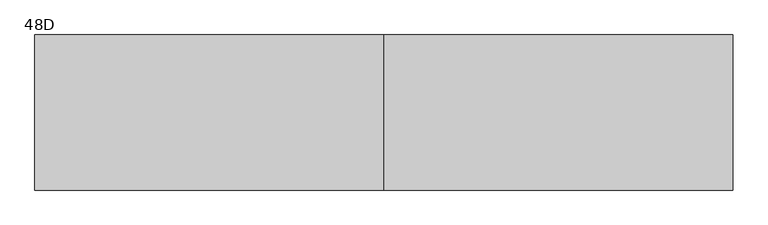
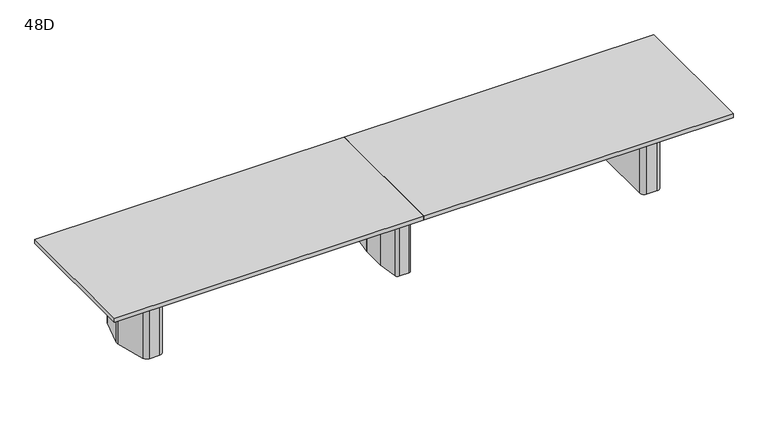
"""IFC4 building model written with IfcOpenShell, lengths in millimetres: furniture geometry, Coalesse_AM_Table_Conference_ETable2_Rectangular_18ft_ThreeBase : 48D."""

import ifcopenshell
import ifcopenshell.guid

model = None  # the IFC model being written
_history = None  # IfcOwnerHistory: only IFC2X3 demands one
_inside = {}  # id of a spatial element -> (the spatial element, [elements in it])
_under = {}  # id of a project, library or spatial element -> (it, [spatial elements below it])
_declared = {}  # id of a project -> (the project, [libraries it declares])
_typed = {}  # id of a type object -> (the type object, [elements of that type])
_made_of = {}  # id of a material, layer set ... -> (it, [elements and type objects made of it])


def new_model(schema):
    """Start an empty IFC model of exactly this schema.

    Asked for "IFC4X3", IfcOpenShell would pick the latest addendum, in which some entities
    have other attributes; the version numbers below select the first issue.
    IFC2X3 requires an IfcOwnerHistory on every rooted entity: one is made here for all.
    """
    global model, _history
    if schema == "IFC4X3":
        model = ifcopenshell.file(schema_version=(4, 3, 0, 0))
    else:
        model = ifcopenshell.file(schema=schema)
    _inside.clear()
    _under.clear()
    _declared.clear()
    _typed.clear()
    _made_of.clear()
    _history = None
    if model.schema == "IFC2X3":
        org = make("IfcOrganization", Name="unknown")
        user = make(
            "IfcPersonAndOrganization",
            ThePerson=make("IfcPerson", FamilyName="unknown"),
            TheOrganization=org,
        )
        app = make(
            "IfcApplication",
            ApplicationDeveloper=org,
            Version="unknown",
            ApplicationFullName="unknown",
            ApplicationIdentifier="unknown",
        )
        _history = make(
            "IfcOwnerHistory",
            OwningUser=user,
            OwningApplication=app,
            ChangeAction="ADDED",
            CreationDate=0,
        )
    return model


def make(cls, **values):
    """One entity of the class cls with the attributes given. An attribute that is None is left unset."""
    return model.create_entity(
        cls, **{name: value for name, value in values.items() if value is not None}
    )


def rooted(cls, **values):
    """An entity with a GlobalId (a new one), such as an element, a storey or a relation."""
    return make(cls, GlobalId=ifcopenshell.guid.new(), OwnerHistory=_history, **values)


def si_unit(unit_type, name, prefix=None):
    """IfcSIUnit, for example si_unit("LENGTHUNIT", "METRE", prefix="MILLI")."""
    return make("IfcSIUnit", UnitType=unit_type, Prefix=prefix, Name=name)


def assignment(units):
    """IfcUnitAssignment: the units of a project."""
    return None if units is None else make("IfcUnitAssignment", Units=units)


def point(xyz):
    """IfcCartesianPoint."""
    return None if xyz is None else make("IfcCartesianPoint", Coordinates=xyz)


def direction(xyz):
    """IfcDirection."""
    return None if xyz is None else make("IfcDirection", DirectionRatios=xyz)


def frame(location, z_axis=None, x_axis=None):
    """IfcAxis2Placement3D, a coordinate frame: its origin and axes. An axis left out is left unset."""
    return make(
        "IfcAxis2Placement3D",
        Location=point(location),
        Axis=direction(z_axis),
        RefDirection=direction(x_axis),
    )


def origin():
    """The frame at (0, 0, 0) with its axes left unset."""
    return frame((0.0, 0.0, 0.0))


def place(relative_to, where):
    """IfcLocalPlacement: puts the frame where relative to a parent placement (None: the world)."""
    return make(
        "IfcLocalPlacement", PlacementRelTo=relative_to, RelativePlacement=where
    )


def context(
    kind, dimensions, precision=None, world=None, true_north=None, identifier=None
):
    """IfcGeometricRepresentationContext, for example the 3D "Model" context."""
    return make(
        "IfcGeometricRepresentationContext",
        ContextIdentifier=identifier,
        ContextType=kind,
        CoordinateSpaceDimension=dimensions,
        Precision=precision,
        WorldCoordinateSystem=world,
        TrueNorth=true_north,
    )


def project(units=None, contexts=None):
    """IfcProject with its units and contexts."""
    return rooted(
        "IfcProject",
        Name="project",
        RepresentationContexts=contexts,
        UnitsInContext=assignment(units),
    )


def spatial(cls, under=None, at=None, **own):
    """A site, building, storey or space (cls), placed at a placement, below another one or the project."""
    s = rooted(cls, ObjectPlacement=at, **own)
    if under is not None:
        _under.setdefault(under.id(), (under, []))[1].append(s)
    return s


def polyline(points):
    """IfcPolyline through the points."""
    return make("IfcPolyline", Points=[point(p) for p in points])


def circle_curve(where, radius):
    """IfcCircle in the frame where."""
    return make("IfcCircle", Position=where, Radius=radius)


def outline(outer, holes=None, kind="AREA"):
    """IfcArbitraryClosedProfileDef: a profile drawn as a closed curve; with holes, ...WithVoids."""
    if holes is None:
        return make("IfcArbitraryClosedProfileDef", ProfileType=kind, OuterCurve=outer)
    return make(
        "IfcArbitraryProfileDefWithVoids",
        ProfileType=kind,
        OuterCurve=outer,
        InnerCurves=holes,
    )


def extrude(swept, where, along, depth):
    """IfcExtrudedAreaSolid: the profile swept, set in the frame where, extruded along a direction by depth."""
    return make(
        "IfcExtrudedAreaSolid",
        SweptArea=swept,
        Position=where,
        ExtrudedDirection=direction(along),
        Depth=depth,
    )


def shape(context_of_items, identifier, shape_type, items):
    """IfcShapeRepresentation: the items that make up one representation, for example the "Body"."""
    return make(
        "IfcShapeRepresentation",
        ContextOfItems=context_of_items,
        RepresentationIdentifier=identifier,
        RepresentationType=shape_type,
        Items=items,
    )


def source(mapping_origin, context_of_items, identifier, shape_type, items):
    """IfcRepresentationMap: a shape defined once, which mapped items show again and again."""
    return make(
        "IfcRepresentationMap",
        MappingOrigin=mapping_origin,
        MappedRepresentation=shape(context_of_items, identifier, shape_type, items),
    )


def transform(
    local_origin,
    x_axis=None,
    y_axis=None,
    z_axis=None,
    scale=None,
    scale2=None,
    scale3=None,
    uniform=True,
):
    """IfcCartesianTransformationOperator3D, or its non-uniform kind. x_axis, y_axis, z_axis: its Axis1, 2, 3."""
    if uniform:
        return make(
            "IfcCartesianTransformationOperator3D",
            Axis1=direction(x_axis),
            Axis2=direction(y_axis),
            LocalOrigin=point(local_origin),
            Scale=scale,
            Axis3=direction(z_axis),
        )
    return make(
        "IfcCartesianTransformationOperator3DnonUniform",
        Axis1=direction(x_axis),
        Axis2=direction(y_axis),
        LocalOrigin=point(local_origin),
        Scale=scale,
        Axis3=direction(z_axis),
        Scale2=scale2,
        Scale3=scale3,
    )


def mapped(mapping_source, mapping_target):
    """IfcMappedItem: shows the shape of a source again, moved by a transform."""
    return make(
        "IfcMappedItem", MappingSource=mapping_source, MappingTarget=mapping_target
    )


def made_of(thing, what):
    """Note that an element or type object is made of a material, layer set ...; save() writes the relation."""
    if what is not None:
        _made_of.setdefault(what.id(), (what, []))[1].append(thing)
    return thing


def element(
    cls,
    number,
    at=None,
    inside=None,
    cuts=None,
    type_object=None,
    material=None,
    context=None,
    identifier="Body",
    shape_type=None,
    held_by="IfcProductDefinitionShape",
    body=None,
    shapes=None,
    **own,
):
    """One element of the class cls, such as IfcWall. Its Tag is "e" and its number.

    at: its placement. inside: the storey or other place that contains it. cuts: it is an
    opening in that element (IfcRelVoidsElement). A single representation is given by context,
    identifier, shape_type and body (its items); several are given by shapes. held_by: the class
    of the entity that holds the representations. save() writes the other relations.
    """
    e = rooted(cls, Tag="e%d" % number, ObjectPlacement=at, **own)
    if body is not None:
        shapes = [shape(context, identifier, shape_type, body)]
    if shapes is not None:
        e.Representation = make(held_by, Representations=shapes)
    if inside is not None:
        _inside.setdefault(inside.id(), (inside, []))[1].append(e)
    if cuts is not None:
        rooted(
            "IfcRelVoidsElement", RelatingBuildingElement=cuts, RelatedOpeningElement=e
        )
    if type_object is not None:
        _typed.setdefault(type_object.id(), (type_object, []))[1].append(e)
    return made_of(e, material)


def aggregate(whole, parts):
    """IfcRelAggregates: a whole, such as a stair, and the parts it consists of."""
    return rooted("IfcRelAggregates", RelatingObject=whole, RelatedObjects=parts)


def save(model, path):
    """Write the relations noted so far, then the file.

    IfcRelAggregates (storeys below a building ...), IfcRelContainedInSpatialStructure (elements
    in a storey), IfcRelDefinesByType, IfcRelAssociatesMaterial and IfcRelDeclares: one each for
    every whole, place, type object, material and project.
    """
    for whole, parts in _under.values():
        aggregate(whole, parts)
    for where, things in _inside.values():
        rooted(
            "IfcRelContainedInSpatialStructure",
            RelatedElements=things,
            RelatingStructure=where,
        )
    for kind, things in _typed.values():
        rooted("IfcRelDefinesByType", RelatedObjects=things, RelatingType=kind)
    for what, things in _made_of.values():
        rooted("IfcRelAssociatesMaterial", RelatedObjects=things, RelatingMaterial=what)
    for by, libraries in _declared.values():
        rooted("IfcRelDeclares", RelatingContext=by, RelatedDefinitions=libraries)
    model.write(path)


def plane_surface(at):
    """IfcPlane: the flat surface through the origin of the frame at, square to its z axis."""
    return make("IfcPlane", Position=at)


def cylinder_surface(at, radius):
    """IfcCylindricalSurface: all points at the distance radius from the z axis of the frame at."""
    return make("IfcCylindricalSurface", Position=at, Radius=radius)


def revolved_surface(curve, axis_point, axis_direction):
    """IfcSurfaceOfRevolution: the curve turned about the line through axis_point along axis_direction."""
    return make(
        "IfcSurfaceOfRevolution",
        SweptCurve=make("IfcArbitraryOpenProfileDef", ProfileType="CURVE", Curve=curve),
        AxisPosition=make("IfcAxis1Placement", Location=point(axis_point), Axis=direction(axis_direction)),
    )


def advanced_brep(points, edges, surfaces, faces):
    """IfcAdvancedBrep: a solid bounded by faces that lie on surfaces and meet in shared edges.

    An edge is (start, end): straight between two places in points (the first is 0);
    or (start, end, curve); or (start, end, curve, False) where it runs against its curve.
    A face is (place in surfaces, loops), or (place, loops, False) where it looks against
    its surface's normal. A loop lists edges by number (the first is 1), with a minus sign
    where the edge is run from its end to its start. The first loop is the outer one.
    """
    corners = [point(p) for p in points]
    vertices = [make("IfcVertexPoint", VertexGeometry=c) for c in corners]
    made = []
    for start, end, *more in edges:
        made.append(
            make(
                "IfcEdgeCurve",
                EdgeStart=vertices[start],
                EdgeEnd=vertices[end],
                EdgeGeometry=more[0] if more else make("IfcPolyline", Points=[corners[start], corners[end]]),
                SameSense=more[1] if len(more) > 1 else True,
            )
        )
    hull = []
    for where, loops, *sense in faces:
        bounds = []
        for j, loop in enumerate(loops):
            ring = [make("IfcOrientedEdge", EdgeElement=made[abs(k) - 1], Orientation=k > 0) for k in loop]
            bounds.append(
                make(
                    "IfcFaceOuterBound" if j == 0 else "IfcFaceBound",
                    Bound=make("IfcEdgeLoop", EdgeList=ring),
                    Orientation=True,
                )
            )
        hull.append(make("IfcAdvancedFace", Bounds=bounds, FaceSurface=surfaces[where], SameSense=sense[0] if sense else True))
    return make("IfcAdvancedBrep", Outer=make("IfcClosedShell", CfsFaces=hull))


def furniture_48d_d8c206ab(model_context):
    return source(origin(), model_context, "Body", "SolidModel", [
        advanced_brep(
        [(35.71875, 206.375, 3.175), (10.31875, 231.775, 3.175), (-10.31875, 231.775, 3.175), (-35.71875, 206.375, 3.175), (-35.71875, -206.375, 3.175), (-10.31875, -231.775, 3.175), (10.31875, -231.775, 3.175), (35.71875, -206.375, 3.175), (-61.11875, 206.375, 0.0), (-10.31875, 257.175, 0.0), (10.31875, 257.175, 0.0), (61.11875, 206.375, 0.0), (61.11875, -206.375, 0.0), (10.31875, -257.175, 0.0), (-10.31875, -257.175, 0.0), (-61.11875, -206.375, 0.0), (-61.11875, -206.375, 3.175), (-61.11875, 206.375, 3.175), (-10.31875, -257.175, 3.175), (10.31875, -257.175, 3.175), (61.11875, -206.375, 3.175), (61.11875, 206.375, 3.175), (10.31875, 257.175, 3.175), (-10.31875, 257.175, 3.175), (-92.6215974, 106.2976848, 698.5), (-92.86875, 102.7629613, 698.5), (-92.86875, -102.7629613, 698.5), (-92.6215974, -106.2976848, 698.5), (-67.7988375, -282.9347235, 698.5), (-42.6459902, -304.8, 698.5), (42.6459902, -304.8, 698.5), (67.7988375, -282.9347235, 698.5), (92.6215974, -106.2976848, 698.5), (92.86875, -102.7629613, 698.5), (92.86875, 102.7629613, 698.5), (92.6215974, 106.2976848, 698.5), (67.7988375, 282.9347235, 698.5), (42.6459902, 304.8, 698.5), (-42.6459902, 304.8, 698.5), (-67.7988375, 282.9347235, 698.5), (10.31875, 231.775, 698.5), (35.71875, 206.375, 698.5), (35.71875, -206.375, 698.5), (10.31875, -231.775, 698.5), (-10.31875, -231.775, 698.5), (-35.71875, -206.375, 698.5), (-35.71875, 206.375, 698.5), (-10.31875, 231.775, 698.5), (-92.6215974, 106.2976848, 3.175), (-67.7988375, 282.9347235, 3.175), (-42.6459902, 304.8, 3.175), (42.6459902, 304.8, 3.175), (67.7988375, 282.9347235, 3.175), (92.6215974, 106.2976848, 3.175), (92.86875, 102.7629613, 3.175), (92.86875, -102.7629613, 3.175), (92.6215974, -106.2976848, 3.175), (67.7988375, -282.9347235, 3.175), (42.6459902, -304.8, 3.175), (-42.6459902, -304.8, 3.175), (-67.7988375, -282.9347235, 3.175), (-92.6215974, -106.2976848, 3.175), (-92.86875, -102.7629613, 3.175), (-92.86875, 102.7629613, 3.175)],
        [
            (0, 1, circle_curve(frame((10.31875, 206.375, 3.175), z_axis=(0.0, 0.0, 1.0), x_axis=(1.0, 0.0, 0.0)), 25.4)),
            (1, 2),
            (2, 3, circle_curve(frame((-10.31875, 206.375, 3.175), z_axis=(0.0, 0.0, 1.0), x_axis=(1.0, 0.0, 0.0)), 25.4)),
            (3, 4),
            (4, 5, circle_curve(frame((-10.31875, -206.375, 3.175), z_axis=(0.0, 0.0, 1.0), x_axis=(1.0, 0.0, 0.0)), 25.4)),
            (5, 6),
            (6, 7, circle_curve(frame((10.31875, -206.375, 3.175), z_axis=(0.0, 0.0, 1.0), x_axis=(1.0, 0.0, 0.0)), 25.4)),
            (7, 0),
            (8, 9, circle_curve(frame((-10.31875, 206.375, 0.0), z_axis=(0.0, 0.0, -1.0), x_axis=(1.0, 0.0, 0.0)), 50.8)),
            (9, 10),
            (10, 11, circle_curve(frame((10.31875, 206.375, 0.0), z_axis=(0.0, 0.0, -1.0), x_axis=(1.0, 0.0, 0.0)), 50.8)),
            (11, 12),
            (12, 13, circle_curve(frame((10.31875, -206.375, 0.0), z_axis=(0.0, 0.0, -1.0), x_axis=(1.0, 0.0, 0.0)), 50.8)),
            (13, 14),
            (14, 15, circle_curve(frame((-10.31875, -206.375, 0.0), z_axis=(0.0, 0.0, -1.0), x_axis=(1.0, 0.0, 0.0)), 50.8)),
            (15, 8),
            (15, 16),
            (16, 17),
            (17, 8),
            (14, 18),
            (18, 16, circle_curve(frame((-10.31875, -206.375, 3.175), z_axis=(0.0, 0.0, -1.0), x_axis=(1.0, 0.0, 0.0)), 50.8)),
            (13, 19),
            (19, 18),
            (12, 20),
            (20, 19, circle_curve(frame((10.31875, -206.375, 3.175), z_axis=(0.0, 0.0, -1.0), x_axis=(1.0, 0.0, 0.0)), 50.8)),
            (11, 21),
            (21, 20),
            (10, 22),
            (22, 21, circle_curve(frame((10.31875, 206.375, 3.175), z_axis=(0.0, 0.0, -1.0), x_axis=(1.0, 0.0, 0.0)), 50.8)),
            (9, 23),
            (23, 22),
            (17, 23, circle_curve(frame((-10.31875, 206.375, 3.175), z_axis=(0.0, 0.0, -1.0), x_axis=(1.0, 0.0, 0.0)), 50.8)),
            (24, 25, circle_curve(frame((-67.46875, 102.7629613, 698.5), z_axis=(0.0, 0.0, 1.0), x_axis=(1.0, 0.0, 0.0)), 25.4)),
            (25, 26),
            (26, 27, circle_curve(frame((-67.46875, -102.7629613, 698.5), z_axis=(0.0, 0.0, 1.0), x_axis=(1.0, 0.0, 0.0)), 25.4)),
            (27, 28),
            (28, 29, circle_curve(frame((-42.6459902, -279.4, 698.5), z_axis=(0.0, 0.0, 1.0), x_axis=(1.0, 0.0, 0.0)), 25.4)),
            (29, 30),
            (30, 31, circle_curve(frame((42.6459902, -279.4, 698.5), z_axis=(0.0, 0.0, 1.0), x_axis=(1.0, 0.0, 0.0)), 25.4)),
            (31, 32),
            (32, 33, circle_curve(frame((67.46875, -102.7629613, 698.5), z_axis=(0.0, 0.0, 1.0), x_axis=(1.0, 0.0, 0.0)), 25.4)),
            (33, 34),
            (34, 35, circle_curve(frame((67.46875, 102.7629613, 698.5), z_axis=(0.0, 0.0, 1.0), x_axis=(1.0, 0.0, 0.0)), 25.4)),
            (35, 36),
            (36, 37, circle_curve(frame((42.6459902, 279.4, 698.5), z_axis=(0.0, 0.0, 1.0), x_axis=(1.0, 0.0, 0.0)), 25.4)),
            (37, 38),
            (38, 39, circle_curve(frame((-42.6459902, 279.4, 698.5), z_axis=(0.0, 0.0, 1.0), x_axis=(1.0, 0.0, 0.0)), 25.4)),
            (39, 24),
            (40, 41, circle_curve(frame((10.31875, 206.375, 698.5), z_axis=(0.0, 0.0, -1.0), x_axis=(1.0, 0.0, 0.0)), 25.4)),
            (41, 42),
            (42, 43, circle_curve(frame((10.31875, -206.375, 698.5), z_axis=(0.0, 0.0, -1.0), x_axis=(1.0, 0.0, 0.0)), 25.4)),
            (43, 44),
            (44, 45, circle_curve(frame((-10.31875, -206.375, 698.5), z_axis=(0.0, 0.0, -1.0), x_axis=(1.0, 0.0, 0.0)), 25.4)),
            (45, 46),
            (46, 47, circle_curve(frame((-10.31875, 206.375, 698.5), z_axis=(0.0, 0.0, -1.0), x_axis=(1.0, 0.0, 0.0)), 25.4)),
            (47, 40),
            (48, 49),
            (49, 50, circle_curve(frame((-42.6459902, 279.4, 3.175), z_axis=(0.0, 0.0, -1.0), x_axis=(1.0, 0.0, 0.0)), 25.4)),
            (50, 51),
            (51, 52, circle_curve(frame((42.6459902, 279.4, 3.175), z_axis=(0.0, 0.0, -1.0), x_axis=(1.0, 0.0, 0.0)), 25.4)),
            (52, 53),
            (53, 54, circle_curve(frame((67.46875, 102.7629613, 3.175), z_axis=(0.0, 0.0, -1.0), x_axis=(1.0, 0.0, 0.0)), 25.4)),
            (54, 55),
            (55, 56, circle_curve(frame((67.46875, -102.7629613, 3.175), z_axis=(0.0, 0.0, -1.0), x_axis=(1.0, 0.0, 0.0)), 25.4)),
            (56, 57),
            (57, 58, circle_curve(frame((42.6459902, -279.4, 3.175), z_axis=(0.0, 0.0, -1.0), x_axis=(1.0, 0.0, 0.0)), 25.4)),
            (58, 59),
            (59, 60, circle_curve(frame((-42.6459902, -279.4, 3.175), z_axis=(0.0, 0.0, -1.0), x_axis=(1.0, 0.0, 0.0)), 25.4)),
            (60, 61),
            (61, 62, circle_curve(frame((-67.46875, -102.7629613, 3.175), z_axis=(0.0, 0.0, -1.0), x_axis=(1.0, 0.0, 0.0)), 25.4)),
            (62, 63),
            (63, 48, circle_curve(frame((-67.46875, 102.7629613, 3.175), z_axis=(0.0, 0.0, -1.0), x_axis=(1.0, 0.0, 0.0)), 25.4)),
            (24, 48),
            (63, 25),
            (62, 26),
            (61, 27),
            (60, 28),
            (59, 29),
            (58, 30),
            (57, 31),
            (56, 32),
            (55, 33),
            (54, 34),
            (53, 35),
            (52, 36),
            (51, 37),
            (50, 38),
            (49, 39),
            (40, 1),
            (0, 41),
            (7, 42),
            (6, 43),
            (5, 44),
            (4, 45),
            (3, 46),
            (2, 47),
        ],
        [
            plane_surface(frame((-61.11875, -206.375, 3.175), z_axis=(0.0, 0.0, 1.0), x_axis=(0.0, -1.0, 0.0))),
            plane_surface(frame((-61.11875, -206.375, 0.0), z_axis=(0.0, 0.0, -1.0), x_axis=(0.0, 1.0, 0.0))),
            plane_surface(frame((-61.11875, 206.375, 3.175), z_axis=(-1.0, 0.0, 0.0), x_axis=(0.0, 0.0, -1.0))),
            cylinder_surface(frame((-10.31875, -206.375, 0.0), z_axis=(0.0, 0.0, 1.0), x_axis=(1.0, 0.0, 0.0)), 50.8),
            plane_surface(frame((-10.31875, -257.175, 3.175), z_axis=(0.0, -1.0, 0.0), x_axis=(0.0, 0.0, -1.0))),
            cylinder_surface(frame((10.31875, -206.375, 0.0), z_axis=(0.0, 0.0, 1.0), x_axis=(1.0, 0.0, 0.0)), 50.8),
            plane_surface(frame((61.11875, -206.375, 3.175), z_axis=(1.0, 0.0, 0.0), x_axis=(0.0, 0.0, -1.0))),
            cylinder_surface(frame((10.31875, 206.375, 0.0), z_axis=(0.0, 0.0, 1.0), x_axis=(1.0, 0.0, 0.0)), 50.8),
            plane_surface(frame((10.31875, 257.175, 3.175), z_axis=(0.0, 1.0, 0.0), x_axis=(0.0, 0.0, -1.0))),
            cylinder_surface(frame((-10.31875, 206.375, 0.0), z_axis=(0.0, 0.0, 1.0), x_axis=(1.0, 0.0, 0.0)), 50.8),
            plane_surface(frame((-42.06875, 102.7629613, 698.5), z_axis=(0.0, 0.0, 1.0), x_axis=(0.0, 1.0, 0.0))),
            plane_surface(frame((-42.06875, 102.7629613, 3.175), z_axis=(0.0, 0.0, -1.0), x_axis=(0.0, -1.0, 0.0))),
            cylinder_surface(frame((-67.46875, 102.7629613, 3.175), z_axis=(0.0, 0.0, 1.0), x_axis=(1.0, 0.0, 0.0)), 25.4),
            plane_surface(frame((-92.86875, 102.7629613, 698.5), z_axis=(-1.0, 0.0, 0.0), x_axis=(0.0, 0.0, -1.0))),
            cylinder_surface(frame((-67.46875, -102.7629613, 3.175), z_axis=(0.0, 0.0, 1.0), x_axis=(1.0, 0.0, 0.0)), 25.4),
            plane_surface(frame((-92.6215974, -106.2976848, 698.5), z_axis=(-0.9902695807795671, -0.13916234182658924, 0.0), x_axis=(0.0, 0.0, -1.0))),
            cylinder_surface(frame((-42.6459902, -279.4, 3.175), z_axis=(0.0, 0.0, 1.0), x_axis=(1.0, 0.0, 0.0)), 25.4),
            plane_surface(frame((-42.6459902, -304.8, 698.5), z_axis=(0.0, -1.0, 0.0), x_axis=(0.0, 0.0, -1.0))),
            cylinder_surface(frame((42.6459902, -279.4, 3.175), z_axis=(0.0, 0.0, 1.0), x_axis=(1.0, 0.0, 0.0)), 25.4),
            plane_surface(frame((67.7988375, -282.9347235, 698.5), z_axis=(0.9902695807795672, -0.13916234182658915, 0.0), x_axis=(0.0, 0.0, -1.0))),
            cylinder_surface(frame((67.46875, -102.7629613, 3.175), z_axis=(0.0, 0.0, 1.0), x_axis=(1.0, 0.0, 0.0)), 25.4),
            plane_surface(frame((92.86875, -102.7629613, 698.5), z_axis=(1.0, 0.0, 0.0), x_axis=(0.0, 0.0, -1.0))),
            cylinder_surface(frame((67.46875, 102.7629613, 3.175), z_axis=(0.0, 0.0, 1.0), x_axis=(1.0, 0.0, 0.0)), 25.4),
            plane_surface(frame((92.6215974, 106.2976848, 698.5), z_axis=(0.9902695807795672, 0.1391623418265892, 0.0), x_axis=(0.0, 0.0, -1.0))),
            cylinder_surface(frame((42.6459902, 279.4, 3.175), z_axis=(0.0, 0.0, 1.0), x_axis=(1.0, 0.0, 0.0)), 25.4),
            plane_surface(frame((42.6459902, 304.8, 698.5), z_axis=(0.0, 1.0, 0.0), x_axis=(0.0, 0.0, -1.0))),
            cylinder_surface(frame((-42.6459902, 279.4, 3.175), z_axis=(0.0, 0.0, 1.0), x_axis=(1.0, 0.0, 0.0)), 25.4),
            plane_surface(frame((-67.7988375, 282.9347235, 698.5), z_axis=(-0.9902695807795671, 0.13916234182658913, 0.0), x_axis=(0.0, 0.0, -1.0))),
            revolved_surface(polyline([(35.71875, 206.375, 3.175), (35.71875, 206.375, 698.5)]), (10.31875, 206.375, 0.0), (0.0, 0.0, -1.0)),
            plane_surface(frame((35.71875, 206.375, 698.5), z_axis=(-1.0, 0.0, 0.0), x_axis=(0.0, 0.0, -1.0))),
            revolved_surface(polyline([(35.71875, -206.375, 3.175), (35.71875, -206.375, 698.5)]), (10.31875, -206.375, 0.0), (0.0, 0.0, -1.0)),
            plane_surface(frame((10.31875, -231.775, 698.5), z_axis=(0.0, 1.0, 0.0), x_axis=(0.0, 0.0, -1.0))),
            revolved_surface(polyline([(15.081249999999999, -206.375, 3.175), (15.081249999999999, -206.375, 698.5)]), (-10.31875, -206.375, 0.0), (0.0, 0.0, -1.0)),
            plane_surface(frame((-35.71875, -206.375, 698.5), z_axis=(1.0, 0.0, 0.0), x_axis=(0.0, 0.0, -1.0))),
            revolved_surface(polyline([(15.081249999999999, 206.375, 3.175), (15.081249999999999, 206.375, 698.5)]), (-10.31875, 206.375, 0.0), (0.0, 0.0, -1.0)),
            plane_surface(frame((-10.31875, 231.775, 698.5), z_axis=(0.0, -1.0, 0.0), x_axis=(0.0, 0.0, -1.0))),
        ],
        [
            (0, [[1, 2, 3, 4, 5, 6, 7, 8]]),
            (1, [[9, 10, 11, 12, 13, 14, 15, 16]]),
            (2, [[-16, 17, 18, 19]]),
            (3, [[-15, 20, 21, -17]]),
            (4, [[-14, 22, 23, -20]]),
            (5, [[-13, 24, 25, -22]]),
            (6, [[-12, 26, 27, -24]]),
            (7, [[-11, 28, 29, -26]]),
            (8, [[-10, 30, 31, -28]]),
            (9, [[-9, -19, 32, -30]]),
            (10, [[33, 34, 35, 36, 37, 38, 39, 40, 41, 42, 43, 44, 45, 46, 47, 48], [49, 50, 51, 52, 53, 54, 55, 56]]),
            (11, [[57, 58, 59, 60, 61, 62, 63, 64, 65, 66, 67, 68, 69, 70, 71, 72], [-18, -21, -23, -25, -27, -29, -31, -32]]),
            (12, [[-33, 73, -72, 74]]),
            (13, [[-34, -74, -71, 75]]),
            (14, [[-35, -75, -70, 76]]),
            (15, [[-36, -76, -69, 77]]),
            (16, [[-37, -77, -68, 78]]),
            (17, [[-38, -78, -67, 79]]),
            (18, [[-39, -79, -66, 80]]),
            (19, [[-40, -80, -65, 81]]),
            (20, [[-41, -81, -64, 82]]),
            (21, [[-42, -82, -63, 83]]),
            (22, [[-43, -83, -62, 84]]),
            (23, [[-44, -84, -61, 85]]),
            (24, [[-45, -85, -60, 86]]),
            (25, [[-46, -86, -59, 87]]),
            (26, [[-47, -87, -58, 88]]),
            (27, [[-48, -88, -57, -73]]),
            (28, [[-49, 89, -1, 90]]),
            (29, [[-50, -90, -8, 91]]),
            (30, [[-51, -91, -7, 92]]),
            (31, [[-52, -92, -6, 93]]),
            (32, [[-53, -93, -5, 94]]),
            (33, [[-54, -94, -4, 95]]),
            (34, [[-55, -95, -3, 96]]),
            (35, [[-56, -96, -2, -89]]),
        ],
    ),
        advanced_brep(
        [(2284.624548, 274.2093613, 698.5), (2244.7579246, 304.8, 698.5), (2155.825, 304.8, 698.5), (2114.55, 263.525, 698.5), (2114.55, -263.525, 698.5), (2155.825, -304.8, 698.5), (2244.7579246, -304.8, 698.5), (2284.624548, -274.2093613, 698.5), (2355.2503901, -10.6333708, 698.5), (2355.2503901, 10.6333708, 698.5), (2152.65, -206.375, 698.5), (2152.65, 206.375, 698.5), (2178.05, 231.775, 698.5), (2237.0608422, 231.775, 698.5), (2261.595338, 212.9490792, 698.5), (2300.2875, 68.54974, 698.5), (2300.2875, -68.54974, 698.5), (2261.595338, -212.9490792, 698.5), (2237.0608422, -231.775, 698.5), (2178.05, -231.775, 698.5), (2284.624548, 274.2093613, 3.175), (2355.2503901, 10.6333708, 3.175), (2355.2503901, -10.6333708, 3.175), (2284.624548, -274.2093613, 3.175), (2244.7579246, -304.8, 3.175), (2155.825, -304.8, 3.175), (2114.55, -263.525, 3.175), (2114.55, 263.525, 3.175), (2155.825, 304.8, 3.175), (2244.7579246, 304.8, 3.175), (2273.8625859, 216.2361187, 3.175), (2237.0608422, 244.475, 3.175), (2178.05, 244.475, 3.175), (2139.95, 206.375, 3.175), (2139.95, -206.375, 3.175), (2178.05, -244.475, 3.175), (2237.0608422, -244.475, 3.175), (2273.8625859, -216.2361187, 3.175), (2312.9875, -70.2217466, 3.175), (2312.9875, 70.2217466, 3.175), (2178.05, -231.775, 3.175), (2152.65, -206.375, 3.175), (2237.0608422, -231.775, 3.175), (2261.595338, -212.9490792, 3.175), (2300.2875, -68.54974, 3.175), (2300.2875, 68.54974, 3.175), (2261.595338, 212.9490792, 3.175), (2237.0608422, 231.775, 3.175), (2178.05, 231.775, 3.175), (2152.65, 206.375, 3.175), (2273.8625859, 216.2361187, 0.0), (2312.9875, 70.2217466, 0.0), (2312.9875, -70.2217466, 0.0), (2273.8625859, -216.2361187, 0.0), (2237.0608422, -244.475, 0.0), (2178.05, -244.475, 0.0), (2139.95, -206.375, 0.0), (2139.95, 206.375, 0.0), (2178.05, 244.475, 0.0), (2237.0608422, 244.475, 0.0)],
        [
            (0, 1, circle_curve(frame((2244.7579246, 263.5270004, 698.5), z_axis=(0.0, 0.0, 1.0), x_axis=(-1.0, 0.0, 0.0)), 41.2729996)),
            (1, 2),
            (2, 3, circle_curve(frame((2155.825, 263.525, 698.5), z_axis=(0.0, 0.0, 1.0), x_axis=(-1.0, 0.0, 0.0)), 41.275)),
            (3, 4),
            (4, 5, circle_curve(frame((2155.825, -263.525, 698.5), z_axis=(0.0, 0.0, 1.0), x_axis=(-1.0, 0.0, 0.0)), 41.275)),
            (5, 6),
            (6, 7, circle_curve(frame((2244.7579246, -263.5270004, 698.5), z_axis=(0.0, 0.0, 1.0), x_axis=(-1.0, 0.0, 0.0)), 41.2729996)),
            (7, 8),
            (8, 9, circle_curve(frame((2315.5665979, 0.0, 698.5), z_axis=(0.0, 0.0, 1.0), x_axis=(-1.0, 0.0, 0.0)), 41.0837187)),
            (9, 0),
            (10, 11),
            (11, 12, circle_curve(frame((2178.05, 206.375, 698.5), z_axis=(0.0, 0.0, -1.0), x_axis=(-1.0, 0.0, 0.0)), 25.4)),
            (12, 13),
            (13, 14, circle_curve(frame((2237.0608422, 206.375, 698.5), z_axis=(0.0, 0.0, -1.0), x_axis=(-1.0, 0.0, 0.0)), 25.4)),
            (14, 15),
            (15, 16),
            (16, 17),
            (17, 18, circle_curve(frame((2237.0608422, -206.375, 698.5), z_axis=(0.0, 0.0, -1.0), x_axis=(-1.0, 0.0, 0.0)), 25.4)),
            (18, 19),
            (19, 10, circle_curve(frame((2178.05, -206.375, 698.5), z_axis=(0.0, 0.0, -1.0), x_axis=(-1.0, 0.0, 0.0)), 25.4)),
            (20, 21),
            (21, 22, circle_curve(frame((2315.5665979, 0.0, 3.175), z_axis=(0.0, 0.0, -1.0), x_axis=(-1.0, 0.0, 0.0)), 41.0837187)),
            (22, 23),
            (23, 24, circle_curve(frame((2244.7579246, -263.5270004, 3.175), z_axis=(0.0, 0.0, -1.0), x_axis=(-1.0, 0.0, 0.0)), 41.2729996)),
            (24, 25),
            (25, 26, circle_curve(frame((2155.825, -263.525, 3.175), z_axis=(0.0, 0.0, -1.0), x_axis=(-1.0, 0.0, 0.0)), 41.275)),
            (26, 27),
            (27, 28, circle_curve(frame((2155.825, 263.525, 3.175), z_axis=(0.0, 0.0, -1.0), x_axis=(-1.0, 0.0, 0.0)), 41.275)),
            (28, 29),
            (29, 20, circle_curve(frame((2244.7579246, 263.5270004, 3.175), z_axis=(0.0, 0.0, -1.0), x_axis=(-1.0, 0.0, 0.0)), 41.2729996)),
            (30, 31, circle_curve(frame((2237.0608422, 206.375, 3.175), z_axis=(0.0, 0.0, 1.0), x_axis=(-1.0, 0.0, 0.0)), 38.1)),
            (31, 32),
            (32, 33, circle_curve(frame((2178.05, 206.375, 3.175), z_axis=(0.0, 0.0, 1.0), x_axis=(-1.0, 0.0, 0.0)), 38.1)),
            (33, 34),
            (34, 35, circle_curve(frame((2178.05, -206.375, 3.175), z_axis=(0.0, 0.0, 1.0), x_axis=(-1.0, 0.0, 0.0)), 38.1)),
            (35, 36),
            (36, 37, circle_curve(frame((2237.0608422, -206.375, 3.175), z_axis=(0.0, 0.0, 1.0), x_axis=(-1.0, 0.0, 0.0)), 38.1)),
            (37, 38),
            (38, 39),
            (39, 30),
            (9, 21),
            (20, 0),
            (8, 22),
            (7, 23),
            (6, 24),
            (5, 25),
            (4, 26),
            (3, 27),
            (2, 28),
            (1, 29),
            (19, 40),
            (40, 41, circle_curve(frame((2178.05, -206.375, 3.175), z_axis=(0.0, 0.0, -1.0), x_axis=(-1.0, 0.0, 0.0)), 25.4)),
            (41, 10),
            (18, 42),
            (42, 40),
            (17, 43),
            (43, 42, circle_curve(frame((2237.0608422, -206.375, 3.175), z_axis=(0.0, 0.0, -1.0), x_axis=(-1.0, 0.0, 0.0)), 25.4)),
            (16, 44),
            (44, 43),
            (15, 45),
            (45, 44),
            (14, 46),
            (46, 45),
            (13, 47),
            (47, 46, circle_curve(frame((2237.0608422, 206.375, 3.175), z_axis=(0.0, 0.0, -1.0), x_axis=(-1.0, 0.0, 0.0)), 25.4)),
            (12, 48),
            (48, 47),
            (11, 49),
            (49, 48, circle_curve(frame((2178.05, 206.375, 3.175), z_axis=(0.0, 0.0, -1.0), x_axis=(-1.0, 0.0, 0.0)), 25.4)),
            (41, 49),
            (50, 51),
            (51, 52),
            (52, 53),
            (53, 54, circle_curve(frame((2237.0608422, -206.375, 0.0), z_axis=(0.0, 0.0, -1.0), x_axis=(-1.0, 0.0, 0.0)), 38.1)),
            (54, 55),
            (55, 56, circle_curve(frame((2178.05, -206.375, 0.0), z_axis=(0.0, 0.0, -1.0), x_axis=(-1.0, 0.0, 0.0)), 38.1)),
            (56, 57),
            (57, 58, circle_curve(frame((2178.05, 206.375, 0.0), z_axis=(0.0, 0.0, -1.0), x_axis=(-1.0, 0.0, 0.0)), 38.1)),
            (58, 59),
            (59, 50, circle_curve(frame((2237.0608422, 206.375, 0.0), z_axis=(0.0, 0.0, -1.0), x_axis=(-1.0, 0.0, 0.0)), 38.1)),
            (50, 30),
            (39, 51),
            (38, 52),
            (37, 53),
            (36, 54),
            (35, 55),
            (34, 56),
            (33, 57),
            (32, 58),
            (31, 59),
        ],
        [
            plane_surface(frame((2355.2374275, 10.6817473, 698.5), z_axis=(0.0, 0.0, 1.0000000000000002), x_axis=(0.25882201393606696, -0.9659250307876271, 0.0))),
            plane_surface(frame((2355.2374275, 10.6817473, 3.175), z_axis=(0.0, 0.0, -1.0000000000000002), x_axis=(-0.25882201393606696, 0.9659250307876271, 0.0))),
            plane_surface(frame((2284.624548, 274.2093613, 698.5), z_axis=(0.9659250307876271, 0.25882201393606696, 0.0), x_axis=(0.0, 0.0, -1.0))),
            cylinder_surface(frame((2315.5665979, 0.0, 3.175), z_axis=(0.0, 0.0, 1.0), x_axis=(-1.0, 0.0, 0.0)), 41.0837187),
            plane_surface(frame((2355.2503901, -10.6333708, 698.5), z_axis=(0.9659250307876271, -0.2588220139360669, 0.0), x_axis=(0.0, 0.0, -1.0))),
            cylinder_surface(frame((2244.7579246, -263.5270004, 3.175), z_axis=(0.0, 0.0, 1.0), x_axis=(-1.0, 0.0, 0.0)), 41.2729996),
            plane_surface(frame((2244.7579246, -304.8, 698.5), z_axis=(0.0, -1.0, 0.0), x_axis=(0.0, 0.0, -1.0))),
            cylinder_surface(frame((2155.825, -263.525, 3.175), z_axis=(0.0, 0.0, 1.0), x_axis=(-1.0, 0.0, 0.0)), 41.275),
            plane_surface(frame((2114.55, -263.525, 698.5), z_axis=(-1.0, 0.0, 0.0), x_axis=(0.0, 0.0, -1.0))),
            cylinder_surface(frame((2155.825, 263.525, 3.175), z_axis=(0.0, 0.0, 1.0), x_axis=(-1.0, 0.0, 0.0)), 41.275),
            plane_surface(frame((2155.825, 304.8, 698.5), z_axis=(0.0, 1.0, 0.0), x_axis=(0.0, 0.0, -1.0))),
            cylinder_surface(frame((2244.7579246, 263.5270004, 3.175), z_axis=(0.0, 0.0, 1.0), x_axis=(-1.0, 0.0, 0.0)), 41.2729996),
            revolved_surface(polyline([(2152.65, -206.375, 3.175), (2152.65, -206.375, 698.5)]), (2178.05, -206.375, 0.0), (0.0, 0.0, -1.0)),
            plane_surface(frame((2178.05, -231.775, 698.5), z_axis=(0.0, 1.0, 0.0), x_axis=(0.0, 0.0, -1.0))),
            revolved_surface(polyline([(2211.6608422, -206.375, 3.175), (2211.6608422, -206.375, 698.5)]), (2237.0608422, -206.375, 0.0), (0.0, 0.0, -1.0)),
            plane_surface(frame((2261.595338, -212.9490792, 698.5), z_axis=(-0.9659250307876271, 0.2588220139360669, 0.0), x_axis=(0.0, 0.0, -1.0))),
            plane_surface(frame((2300.2875, -68.54974, 698.5), z_axis=(-1.0, 0.0, 0.0), x_axis=(0.0, 0.0, -1.0))),
            plane_surface(frame((2300.2875, 68.54974, 698.5), z_axis=(-0.9659250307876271, -0.25882201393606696, 0.0), x_axis=(0.0, 0.0, -1.0))),
            revolved_surface(polyline([(2211.6608422, 206.375, 3.175), (2211.6608422, 206.375, 698.5)]), (2237.0608422, 206.375, 0.0), (0.0, 0.0, -1.0)),
            plane_surface(frame((2237.0608422, 231.775, 698.5), z_axis=(0.0, -1.0, 0.0), x_axis=(0.0, 0.0, -1.0))),
            revolved_surface(polyline([(2152.65, 206.375, 3.175), (2152.65, 206.375, 698.5)]), (2178.05, 206.375, 0.0), (0.0, 0.0, -1.0)),
            plane_surface(frame((2152.65, 206.375, 698.5), z_axis=(1.0, 0.0, 0.0), x_axis=(0.0, 0.0, -1.0))),
            plane_surface(frame((2312.5547479, 71.8367796, 3.175), z_axis=(0.0, 0.0, 1.0), x_axis=(0.25882201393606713, -0.965925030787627, 0.0))),
            plane_surface(frame((2312.5547479, 71.8367796, 0.0), z_axis=(0.0, 0.0, -1.0), x_axis=(-0.25882201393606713, 0.965925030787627, 0.0))),
            plane_surface(frame((2273.8625859, 216.2361187, 3.175), z_axis=(0.965925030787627, 0.25882201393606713, 0.0), x_axis=(0.0, 0.0, -1.0))),
            plane_surface(frame((2312.9875, 70.2217466, 3.175), z_axis=(1.0, 0.0, 0.0), x_axis=(0.0, 0.0, -1.0))),
            plane_surface(frame((2312.9875, -70.2217466, 3.175), z_axis=(0.9659250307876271, -0.2588220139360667, 0.0), x_axis=(0.0, 0.0, -1.0))),
            cylinder_surface(frame((2237.0608422, -206.375, 0.0), z_axis=(0.0, 0.0, 1.0), x_axis=(-1.0, 0.0, 0.0)), 38.1),
            plane_surface(frame((2237.0608422, -244.475, 3.175), z_axis=(0.0, -1.0, 0.0), x_axis=(0.0, 0.0, -1.0))),
            cylinder_surface(frame((2178.05, -206.375, 0.0), z_axis=(0.0, 0.0, 1.0), x_axis=(-1.0, 0.0, 0.0)), 38.1),
            plane_surface(frame((2139.95, -206.375, 3.175), z_axis=(-1.0, 0.0, 0.0), x_axis=(0.0, 0.0, -1.0))),
            cylinder_surface(frame((2178.05, 206.375, 0.0), z_axis=(0.0, 0.0, 1.0), x_axis=(-1.0, 0.0, 0.0)), 38.1),
            plane_surface(frame((2178.05, 244.475, 3.175), z_axis=(0.0, 1.0, 0.0), x_axis=(0.0, 0.0, -1.0))),
            cylinder_surface(frame((2237.0608422, 206.375, 0.0), z_axis=(0.0, 0.0, 1.0), x_axis=(-1.0, 0.0, 0.0)), 38.1),
        ],
        [
            (0, [[1, 2, 3, 4, 5, 6, 7, 8, 9, 10], [11, 12, 13, 14, 15, 16, 17, 18, 19, 20]]),
            (1, [[21, 22, 23, 24, 25, 26, 27, 28, 29, 30], [31, 32, 33, 34, 35, 36, 37, 38, 39, 40]]),
            (2, [[41, -21, 42, -10]]),
            (3, [[43, -22, -41, -9]]),
            (4, [[44, -23, -43, -8]]),
            (5, [[45, -24, -44, -7]]),
            (6, [[46, -25, -45, -6]]),
            (7, [[47, -26, -46, -5]]),
            (8, [[48, -27, -47, -4]]),
            (9, [[49, -28, -48, -3]]),
            (10, [[50, -29, -49, -2]]),
            (11, [[-42, -30, -50, -1]]),
            (12, [[51, 52, 53, -20]]),
            (13, [[54, 55, -51, -19]]),
            (14, [[56, 57, -54, -18]]),
            (15, [[58, 59, -56, -17]]),
            (16, [[60, 61, -58, -16]]),
            (17, [[62, 63, -60, -15]]),
            (18, [[64, 65, -62, -14]]),
            (19, [[66, 67, -64, -13]]),
            (20, [[68, 69, -66, -12]]),
            (21, [[-53, 70, -68, -11]]),
            (22, [[-55, -57, -59, -61, -63, -65, -67, -69, -70, -52]]),
            (23, [[71, 72, 73, 74, 75, 76, 77, 78, 79, 80]]),
            (24, [[81, -40, 82, -71]]),
            (25, [[-82, -39, 83, -72]]),
            (26, [[-83, -38, 84, -73]]),
            (27, [[-84, -37, 85, -74]]),
            (28, [[-85, -36, 86, -75]]),
            (29, [[-86, -35, 87, -76]]),
            (30, [[-87, -34, 88, -77]]),
            (31, [[-88, -33, 89, -78]]),
            (32, [[-89, -32, 90, -79]]),
            (33, [[-90, -31, -81, -80]]),
        ],
    ),
        advanced_brep(
        [(-2295.737048, 274.2093613, 698.5), (-2366.3628901, 10.6333708, 698.5), (-2366.3628901, -10.6333708, 698.5), (-2295.737048, -274.2093613, 698.5), (-2255.8704246, -304.8, 698.5), (-2166.9375, -304.8, 698.5), (-2125.6625, -263.525, 698.5), (-2125.6625, 263.525, 698.5), (-2166.9375, 304.8, 698.5), (-2255.8704246, 304.8, 698.5), (-2163.7625, -206.375, 698.5), (-2189.1625, -231.775, 698.5), (-2248.1733422, -231.775, 698.5), (-2272.707838, -212.9490792, 698.5), (-2311.4, -68.54974, 698.5), (-2311.4, 68.54974, 698.5), (-2272.707838, 212.9490792, 698.5), (-2248.1733422, 231.775, 698.5), (-2189.1625, 231.775, 698.5), (-2163.7625, 206.375, 698.5), (-2295.737048, 274.2093613, 3.175), (-2255.8704246, 304.8, 3.175), (-2166.9375, 304.8, 3.175), (-2125.6625, 263.525, 3.175), (-2125.6625, -263.525, 3.175), (-2166.9375, -304.8, 3.175), (-2255.8704246, -304.8, 3.175), (-2295.737048, -274.2093613, 3.175), (-2366.3628901, -10.6333708, 3.175), (-2366.3628901, 10.6333708, 3.175), (-2284.9750859, 216.2361187, 3.175), (-2324.1, 70.2217466, 3.175), (-2324.1, -70.2217466, 3.175), (-2284.9750859, -216.2361187, 3.175), (-2248.1733422, -244.475, 3.175), (-2189.1625, -244.475, 3.175), (-2151.0625, -206.375, 3.175), (-2151.0625, 206.375, 3.175), (-2189.1625, 244.475, 3.175), (-2248.1733422, 244.475, 3.175), (-2163.7625, -206.375, 3.175), (-2189.1625, -231.775, 3.175), (-2248.1733422, -231.775, 3.175), (-2272.707838, -212.9490792, 3.175), (-2311.4, -68.54974, 3.175), (-2311.4, 68.54974, 3.175), (-2272.707838, 212.9490792, 3.175), (-2248.1733422, 231.775, 3.175), (-2189.1625, 231.775, 3.175), (-2163.7625, 206.375, 3.175), (-2284.9750859, 216.2361187, 0.0), (-2248.1733422, 244.475, 0.0), (-2189.1625, 244.475, 0.0), (-2151.0625, 206.375, 0.0), (-2151.0625, -206.375, 0.0), (-2189.1625, -244.475, 0.0), (-2248.1733422, -244.475, 0.0), (-2284.9750859, -216.2361187, 0.0), (-2324.1, -70.2217466, 0.0), (-2324.1, 70.2217466, 0.0)],
        [
            (0, 1),
            (1, 2, circle_curve(frame((-2326.6790979, 0.0, 698.5), z_axis=(0.0, 0.0, 1.0), x_axis=(1.0, 0.0, 0.0)), 41.0837187)),
            (2, 3),
            (3, 4, circle_curve(frame((-2255.8704246, -263.5270004, 698.5), z_axis=(0.0, 0.0, 1.0), x_axis=(1.0, 0.0, 0.0)), 41.2729996)),
            (4, 5),
            (5, 6, circle_curve(frame((-2166.9375, -263.525, 698.5), z_axis=(0.0, 0.0, 1.0), x_axis=(1.0, 0.0, 0.0)), 41.275)),
            (6, 7),
            (7, 8, circle_curve(frame((-2166.9375, 263.525, 698.5), z_axis=(0.0, 0.0, 1.0), x_axis=(1.0, 0.0, 0.0)), 41.275)),
            (8, 9),
            (9, 0, circle_curve(frame((-2255.8704246, 263.5270004, 698.5), z_axis=(0.0, 0.0, 1.0), x_axis=(1.0, 0.0, 0.0)), 41.2729996)),
            (10, 11, circle_curve(frame((-2189.1625, -206.375, 698.5), z_axis=(0.0, 0.0, -1.0), x_axis=(1.0, 0.0, 0.0)), 25.4)),
            (11, 12),
            (12, 13, circle_curve(frame((-2248.1733422, -206.375, 698.5), z_axis=(0.0, 0.0, -1.0), x_axis=(1.0, 0.0, 0.0)), 25.4)),
            (13, 14),
            (14, 15),
            (15, 16),
            (16, 17, circle_curve(frame((-2248.1733422, 206.375, 698.5), z_axis=(0.0, 0.0, -1.0), x_axis=(1.0, 0.0, 0.0)), 25.4)),
            (17, 18),
            (18, 19, circle_curve(frame((-2189.1625, 206.375, 698.5), z_axis=(0.0, 0.0, -1.0), x_axis=(1.0, 0.0, 0.0)), 25.4)),
            (19, 10),
            (20, 21, circle_curve(frame((-2255.8704246, 263.5270004, 3.175), z_axis=(0.0, 0.0, -1.0), x_axis=(1.0, 0.0, 0.0)), 41.2729996)),
            (21, 22),
            (22, 23, circle_curve(frame((-2166.9375, 263.525, 3.175), z_axis=(0.0, 0.0, -1.0), x_axis=(1.0, 0.0, 0.0)), 41.275)),
            (23, 24),
            (24, 25, circle_curve(frame((-2166.9375, -263.525, 3.175), z_axis=(0.0, 0.0, -1.0), x_axis=(1.0, 0.0, 0.0)), 41.275)),
            (25, 26),
            (26, 27, circle_curve(frame((-2255.8704246, -263.5270004, 3.175), z_axis=(0.0, 0.0, -1.0), x_axis=(1.0, 0.0, 0.0)), 41.2729996)),
            (27, 28),
            (28, 29, circle_curve(frame((-2326.6790979, 0.0, 3.175), z_axis=(0.0, 0.0, -1.0), x_axis=(1.0, 0.0, 0.0)), 41.0837187)),
            (29, 20),
            (30, 31),
            (31, 32),
            (32, 33),
            (33, 34, circle_curve(frame((-2248.1733422, -206.375, 3.175), z_axis=(0.0, 0.0, 1.0), x_axis=(1.0, 0.0, 0.0)), 38.1)),
            (34, 35),
            (35, 36, circle_curve(frame((-2189.1625, -206.375, 3.175), z_axis=(0.0, 0.0, 1.0), x_axis=(1.0, 0.0, 0.0)), 38.1)),
            (36, 37),
            (37, 38, circle_curve(frame((-2189.1625, 206.375, 3.175), z_axis=(0.0, 0.0, 1.0), x_axis=(1.0, 0.0, 0.0)), 38.1)),
            (38, 39),
            (39, 30, circle_curve(frame((-2248.1733422, 206.375, 3.175), z_axis=(0.0, 0.0, 1.0), x_axis=(1.0, 0.0, 0.0)), 38.1)),
            (0, 20),
            (29, 1),
            (28, 2),
            (27, 3),
            (26, 4),
            (25, 5),
            (24, 6),
            (23, 7),
            (22, 8),
            (21, 9),
            (10, 40),
            (40, 41, circle_curve(frame((-2189.1625, -206.375, 3.175), z_axis=(0.0, 0.0, -1.0), x_axis=(1.0, 0.0, 0.0)), 25.4)),
            (41, 11),
            (41, 42),
            (42, 12),
            (42, 43, circle_curve(frame((-2248.1733422, -206.375, 3.175), z_axis=(0.0, 0.0, -1.0), x_axis=(1.0, 0.0, 0.0)), 25.4)),
            (43, 13),
            (43, 44),
            (44, 14),
            (44, 45),
            (45, 15),
            (45, 46),
            (46, 16),
            (46, 47, circle_curve(frame((-2248.1733422, 206.375, 3.175), z_axis=(0.0, 0.0, -1.0), x_axis=(1.0, 0.0, 0.0)), 25.4)),
            (47, 17),
            (47, 48),
            (48, 18),
            (48, 49, circle_curve(frame((-2189.1625, 206.375, 3.175), z_axis=(0.0, 0.0, -1.0), x_axis=(1.0, 0.0, 0.0)), 25.4)),
            (49, 19),
            (49, 40),
            (50, 51, circle_curve(frame((-2248.1733422, 206.375, 0.0), z_axis=(0.0, 0.0, -1.0), x_axis=(1.0, 0.0, 0.0)), 38.1)),
            (51, 52),
            (52, 53, circle_curve(frame((-2189.1625, 206.375, 0.0), z_axis=(0.0, 0.0, -1.0), x_axis=(1.0, 0.0, 0.0)), 38.1)),
            (53, 54),
            (54, 55, circle_curve(frame((-2189.1625, -206.375, 0.0), z_axis=(0.0, 0.0, -1.0), x_axis=(1.0, 0.0, 0.0)), 38.1)),
            (55, 56),
            (56, 57, circle_curve(frame((-2248.1733422, -206.375, 0.0), z_axis=(0.0, 0.0, -1.0), x_axis=(1.0, 0.0, 0.0)), 38.1)),
            (57, 58),
            (58, 59),
            (59, 50),
            (59, 31),
            (30, 50),
            (58, 32),
            (57, 33),
            (56, 34),
            (55, 35),
            (54, 36),
            (53, 37),
            (52, 38),
            (51, 39),
        ],
        [
            plane_surface(frame((-2366.3499275, 10.6817473, 698.5), z_axis=(0.0, 0.0, 1.0000000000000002), x_axis=(-0.25882201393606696, -0.9659250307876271, 0.0))),
            plane_surface(frame((-2366.3499275, 10.6817473, 3.175), z_axis=(0.0, 0.0, -1.0000000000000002), x_axis=(0.25882201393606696, 0.9659250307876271, 0.0))),
            plane_surface(frame((-2295.737048, 274.2093613, 698.5), z_axis=(-0.9659250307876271, 0.25882201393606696, 0.0), x_axis=(0.0, 0.0, -1.0))),
            cylinder_surface(frame((-2326.6790979, 0.0, 3.175), z_axis=(0.0, 0.0, 1.0), x_axis=(1.0, 0.0, 0.0)), 41.0837187),
            plane_surface(frame((-2366.3628901, -10.6333708, 698.5), z_axis=(-0.9659250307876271, -0.2588220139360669, 0.0), x_axis=(0.0, 0.0, -1.0))),
            cylinder_surface(frame((-2255.8704246, -263.5270004, 3.175), z_axis=(0.0, 0.0, 1.0), x_axis=(1.0, 0.0, 0.0)), 41.2729996),
            plane_surface(frame((-2255.8704246, -304.8, 698.5), z_axis=(0.0, -1.0, 0.0), x_axis=(0.0, 0.0, -1.0))),
            cylinder_surface(frame((-2166.9375, -263.525, 3.175), z_axis=(0.0, 0.0, 1.0), x_axis=(1.0, 0.0, 0.0)), 41.275),
            plane_surface(frame((-2125.6625, -263.525, 698.5), z_axis=(1.0, 0.0, 0.0), x_axis=(0.0, 0.0, -1.0))),
            cylinder_surface(frame((-2166.9375, 263.525, 3.175), z_axis=(0.0, 0.0, 1.0), x_axis=(1.0, 0.0, 0.0)), 41.275),
            plane_surface(frame((-2166.9375, 304.8, 698.5), z_axis=(0.0, 1.0, 0.0), x_axis=(0.0, 0.0, -1.0))),
            cylinder_surface(frame((-2255.8704246, 263.5270004, 3.175), z_axis=(0.0, 0.0, 1.0), x_axis=(1.0, 0.0, 0.0)), 41.2729996),
            revolved_surface(polyline([(-2163.7625, -206.375, 3.175), (-2163.7625, -206.375, 698.5)]), (-2189.1625, -206.375, 0.0), (0.0, 0.0, -1.0)),
            plane_surface(frame((-2189.1625, -231.775, 698.5), z_axis=(0.0, 1.0, 0.0), x_axis=(0.0, 0.0, -1.0))),
            revolved_surface(polyline([(-2222.7733422, -206.375, 3.175), (-2222.7733422, -206.375, 698.5)]), (-2248.1733422, -206.375, 0.0), (0.0, 0.0, -1.0)),
            plane_surface(frame((-2272.707838, -212.9490792, 698.5), z_axis=(0.9659250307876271, 0.2588220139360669, 0.0), x_axis=(0.0, 0.0, -1.0))),
            plane_surface(frame((-2311.4, -68.54974, 698.5), z_axis=(1.0, 0.0, 0.0), x_axis=(0.0, 0.0, -1.0))),
            plane_surface(frame((-2311.4, 68.54974, 698.5), z_axis=(0.9659250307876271, -0.25882201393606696, 0.0), x_axis=(0.0, 0.0, -1.0))),
            revolved_surface(polyline([(-2222.7733422, 206.375, 3.175), (-2222.7733422, 206.375, 698.5)]), (-2248.1733422, 206.375, 0.0), (0.0, 0.0, -1.0)),
            plane_surface(frame((-2248.1733422, 231.775, 698.5), z_axis=(0.0, -1.0, 0.0), x_axis=(0.0, 0.0, -1.0))),
            revolved_surface(polyline([(-2163.7625, 206.375, 3.175), (-2163.7625, 206.375, 698.5)]), (-2189.1625, 206.375, 0.0), (0.0, 0.0, -1.0)),
            plane_surface(frame((-2163.7625, 206.375, 698.5), z_axis=(-1.0, 0.0, 0.0), x_axis=(0.0, 0.0, -1.0))),
            plane_surface(frame((-2323.6672479, 71.8367796, 3.175), z_axis=(0.0, 0.0, 1.0), x_axis=(-0.25882201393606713, -0.965925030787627, 0.0))),
            plane_surface(frame((-2323.6672479, 71.8367796, 0.0), z_axis=(0.0, 0.0, -1.0), x_axis=(0.25882201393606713, 0.965925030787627, 0.0))),
            plane_surface(frame((-2284.9750859, 216.2361187, 3.175), z_axis=(-0.965925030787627, 0.25882201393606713, 0.0), x_axis=(0.0, 0.0, -1.0))),
            plane_surface(frame((-2324.1, 70.2217466, 3.175), z_axis=(-1.0, 0.0, 0.0), x_axis=(0.0, 0.0, -1.0))),
            plane_surface(frame((-2324.1, -70.2217466, 3.175), z_axis=(-0.9659250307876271, -0.2588220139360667, 0.0), x_axis=(0.0, 0.0, -1.0))),
            cylinder_surface(frame((-2248.1733422, -206.375, 0.0), z_axis=(0.0, 0.0, 1.0), x_axis=(1.0, 0.0, 0.0)), 38.1),
            plane_surface(frame((-2248.1733422, -244.475, 3.175), z_axis=(0.0, -1.0, 0.0), x_axis=(0.0, 0.0, -1.0))),
            cylinder_surface(frame((-2189.1625, -206.375, 0.0), z_axis=(0.0, 0.0, 1.0), x_axis=(1.0, 0.0, 0.0)), 38.1),
            plane_surface(frame((-2151.0625, -206.375, 3.175), z_axis=(1.0, 0.0, 0.0), x_axis=(0.0, 0.0, -1.0))),
            cylinder_surface(frame((-2189.1625, 206.375, 0.0), z_axis=(0.0, 0.0, 1.0), x_axis=(1.0, 0.0, 0.0)), 38.1),
            plane_surface(frame((-2189.1625, 244.475, 3.175), z_axis=(0.0, 1.0, 0.0), x_axis=(0.0, 0.0, -1.0))),
            cylinder_surface(frame((-2248.1733422, 206.375, 0.0), z_axis=(0.0, 0.0, 1.0), x_axis=(1.0, 0.0, 0.0)), 38.1),
        ],
        [
            (0, [[1, 2, 3, 4, 5, 6, 7, 8, 9, 10], [11, 12, 13, 14, 15, 16, 17, 18, 19, 20]]),
            (1, [[21, 22, 23, 24, 25, 26, 27, 28, 29, 30], [31, 32, 33, 34, 35, 36, 37, 38, 39, 40]]),
            (2, [[-1, 41, -30, 42]]),
            (3, [[-2, -42, -29, 43]]),
            (4, [[-3, -43, -28, 44]]),
            (5, [[-4, -44, -27, 45]]),
            (6, [[-5, -45, -26, 46]]),
            (7, [[-6, -46, -25, 47]]),
            (8, [[-7, -47, -24, 48]]),
            (9, [[-8, -48, -23, 49]]),
            (10, [[-9, -49, -22, 50]]),
            (11, [[-10, -50, -21, -41]]),
            (12, [[-11, 51, 52, 53]]),
            (13, [[-12, -53, 54, 55]]),
            (14, [[-13, -55, 56, 57]]),
            (15, [[-14, -57, 58, 59]]),
            (16, [[-15, -59, 60, 61]]),
            (17, [[-16, -61, 62, 63]]),
            (18, [[-17, -63, 64, 65]]),
            (19, [[-18, -65, 66, 67]]),
            (20, [[-19, -67, 68, 69]]),
            (21, [[-20, -69, 70, -51]]),
            (22, [[-52, -70, -68, -66, -64, -62, -60, -58, -56, -54]]),
            (23, [[71, 72, 73, 74, 75, 76, 77, 78, 79, 80]]),
            (24, [[-80, 81, -31, 82]]),
            (25, [[-79, 83, -32, -81]]),
            (26, [[-78, 84, -33, -83]]),
            (27, [[-77, 85, -34, -84]]),
            (28, [[-76, 86, -35, -85]]),
            (29, [[-75, 87, -36, -86]]),
            (30, [[-74, 88, -37, -87]]),
            (31, [[-73, 89, -38, -88]]),
            (32, [[-72, 90, -39, -89]]),
            (33, [[-71, -82, -40, -90]]),
        ],
    ),
        extrude(outline(polyline([(2743.2, 609.6), (2743.2, -609.6), (0.0, -609.6), (0.0, 609.6), (2743.2, 609.6)])), frame((0.0, 0.0, 698.5), z_axis=(0.0, 0.0, 1.0), x_axis=(1.0, 0.0, 0.0)), (0.0, 0.0, 1.0), 38.1),
        extrude(outline(polyline([(0.0, 609.6), (0.0, -609.6), (-2743.2, -609.6), (-2743.2, 609.6), (0.0, 609.6)])), frame((0.0, 0.0, 698.5), z_axis=(0.0, 0.0, 1.0), x_axis=(1.0, 0.0, 0.0)), (0.0, 0.0, 1.0), 38.1),
        extrude(outline(polyline([(96.8375, 698.5), (103.1875, 698.5), (103.1875, 476.25), (-103.1875, 476.25), (-103.1875, 698.5), (-96.8375, 698.5), (-96.8375, 482.6), (96.8375, 482.6), (96.8375, 698.5)])), frame((-2125.6625, 0.0, 0.0), z_axis=(1.0, 0.0, 0.0), x_axis=(0.0, 1.0, 0.0)), (0.0, 0.0, 1.0), 4240.2125),
    ])


if __name__ == "__main__":
    model = new_model("IFC4")
    model_context = context("Model", 3, world=origin())
    ifc_project = project(units=[si_unit("LENGTHUNIT", "METRE", prefix="MILLI")], contexts=[model_context])
    site = spatial("IfcSite", under=ifc_project)
    building = spatial("IfcBuilding", under=site)
    placement = place(None, origin())
    furniture_48d_shape = furniture_48d_d8c206ab(model_context)
    element("IfcFurniture", 1, ObjectType="Coalesse_AM_Table_Conference_ETable2_Rectangular_18ft_ThreeBase : 48D", at=placement, inside=building, context=model_context, shape_type="MappedRepresentation", body=[
        mapped(furniture_48d_shape, transform((0.0, 0.0, 0.0), x_axis=(1.0, 0.0, 0.0), y_axis=(0.0, 1.0, 0.0), z_axis=(0.0, 0.0, 1.0))),
    ])
    save(model, "model.ifc")
